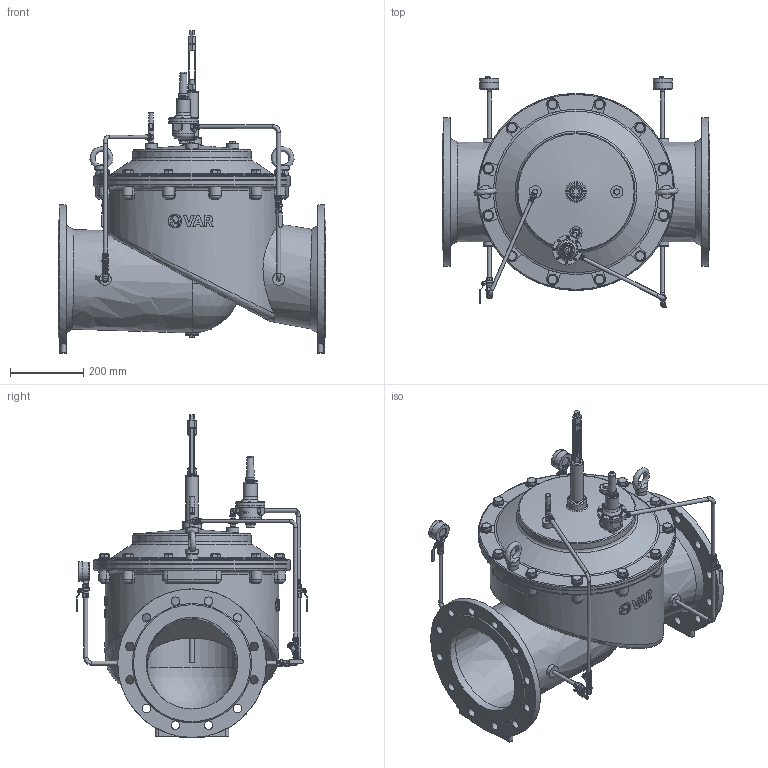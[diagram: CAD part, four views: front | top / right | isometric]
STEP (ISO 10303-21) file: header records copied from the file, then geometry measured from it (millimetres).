
FILE_DESCRIPTION(('STEP AP242'), '1');
FILE_NAME('PICO C200', '', ('UNSPECIFIED'), ('UNSPECIFIED'), 'C3D Converter', 'C3D Toolkit', '');
FILE_SCHEMA(('AP242_MANAGED_MODEL_BASED_3D_ENGINEERING_MIM_LF { 1 0 10303 442 1 1 4 }'));
Length unit declared in the file: millimetre
Products named in the file (26): М; ВР.752218.002
Assembly tree (69 placements, depth 3):
  (unnamed)
    (unnamed)
    (unnamed)
    (unnamed)
    (unnamed)
    (unnamed)
    (unnamed)
    (unnamed)
    М  x2
    (unnamed)
    (unnamed)  x4
    ВР.752218.002  x2
    (unnamed)  x6
    (unnamed)
    (unnamed)  x4
    (unnamed)
    (unnamed)
      (unnamed)
      (unnamed)
      (unnamed)  x8
      (unnamed)
    (unnamed)
    (unnamed)  x2
    (unnamed)  x2
    (unnamed)  x12
    (unnamed)  x12
Bounding box: 730 x 632 x 880.5 mm (x, y, z)
Volume: 25599493.7 mm3; surface area: 4454306.3 mm2
Topology: 75 solids, 77 shells, 3030 faces, 7581 edges, 4969 vertices
Faces by surface type: plane 1674, cylinder 681, cone 321, extrusion 135, torus 121, bspline 87, sphere 11
Full cylindrical faces by diameter (mm): 0.518 x2, 1.2 x1, 2.5 x2, 3 x8, 4 x25, 4.2 x4, 4.5 x4, 5 x2, 6 x8, 7 x8, 8 x5, 8.7 x1, 9 x16, 9.3 x6, 9.5 x2, 10 x4, 10.2 x4, 10.8 x2, 11 x18, 11.16 x4, 11.179 x6, 11.22 x4, 11.4 x2, 11.577 x2, 12 x10, 12.5 x3, 12.573 x15, 13.157 x2, 13.8 x4, 14.4 x5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
Entity records: 118976 total; most frequent: CARTESIAN_POINT 66961, ORIENTED_EDGE 8294, DIRECTION 7656, EDGE_CURVE 4147, VERTEX_POINT 2971, AXIS2_PLACEMENT_3D 2839, EDGE_LOOP 2580, FACE_BOUND 2024
